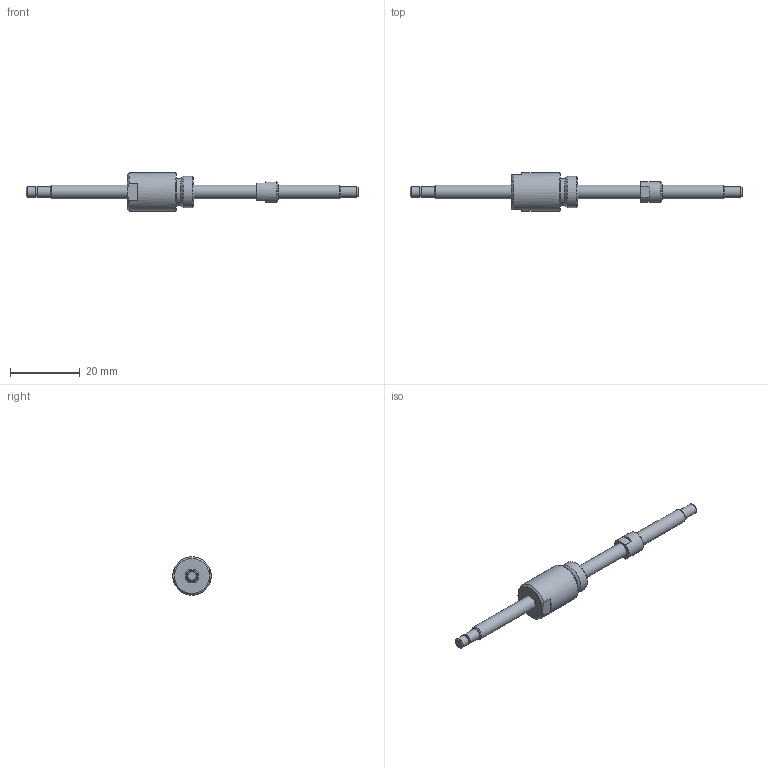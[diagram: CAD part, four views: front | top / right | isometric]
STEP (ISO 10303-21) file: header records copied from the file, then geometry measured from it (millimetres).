
FILE_DESCRIPTION(/* description */ ('STEP AP214'),/* implementation_level */ '2;1');
FILE_NAME(/* name */ 'NSG0401-056R095C5B0X(22)',/* time_stamp */ '2026-08-20T15:45:17+02:00',/* author */ ('License CC BY-ND 4.0'),/* organization */ ('CADENAS'),/* preprocessor_version */ 'ST-DEVELOPER v20',/* originating_system */ 'PARTsolutions',/* authorisation */ ' ');
FILE_SCHEMA (('AUTOMOTIVE_DESIGN {1 0 10303 214 3 1 1}'));
Length unit declared in the file: millimetre
Products named in the file (3): NSG0401-056R095C5B0X(22); NSG0401-56R95C3B_shaft; NSG0401_nut
Assembly tree (2 placements, depth 2):
  NSG0401-056R095C5B0X(22)
    NSG0401-56R95C3B_shaft
    NSG0401_nut
Bounding box: 95 x 11 x 11 mm (x, y, z)
Volume: 2579.2 mm3; surface area: 2264.7 mm2
Topology: 2 solids, 2 shells, 41 faces, 78 edges, 48 vertices
Faces by surface type: plane 19, cylinder 11, cone 10, torus 1
Full cylindrical faces by diameter (mm): 2.7 x1, 3 x3, 4 x3, 6 x1, 7.7 x1, 9 x1, 11 x1
Entity records: 999 total; most frequent: DIRECTION 178, CARTESIAN_POINT 158, ORIENTED_EDGE 112, AXIS2_PLACEMENT_3D 82, EDGE_LOOP 70, FACE_BOUND 70, EDGE_CURVE 56, VERTEX_POINT 46
